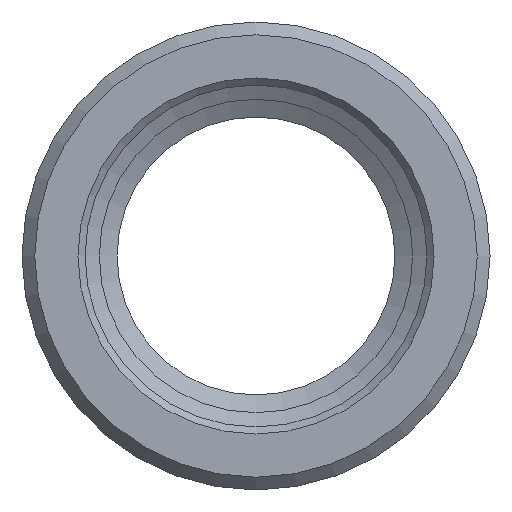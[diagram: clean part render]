
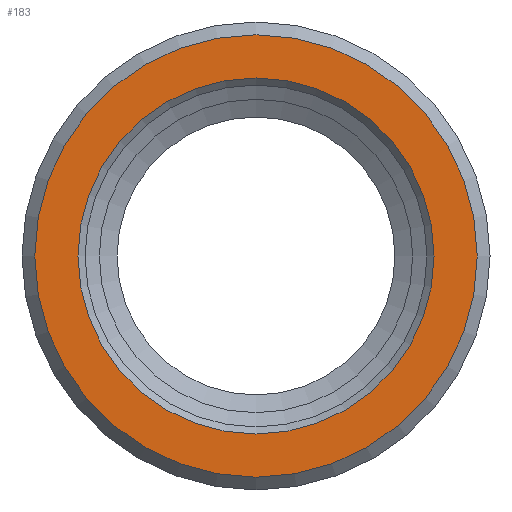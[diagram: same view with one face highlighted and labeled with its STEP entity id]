
A CAD part, left-side view. The second image highlights one B-rep face of the part: STEP entity #183.
In plain terms, the highlighted planar face has unit normal (-1, 0, 0).
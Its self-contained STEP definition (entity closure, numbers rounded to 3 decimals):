
#152=CARTESIAN_POINT('',(0.,25.,0.));
#153=VERTEX_POINT('',#152);
#154=CARTESIAN_POINT('',(0.,0.,0.0));
#155=DIRECTION('',(-1.0,0.0,0.0));
#156=DIRECTION('',(0.0,-1.0,0.0));
#157=AXIS2_PLACEMENT_3D('',#154,#155,#156);
#158=CIRCLE('',#157,25.);
#159=EDGE_CURVE('',#153,#153,#158,.T.);
#164=CARTESIAN_POINT('',(0.,28.427,0.0));
#165=DIRECTION('',(-1.0,0.0,0.0));
#166=DIRECTION('',(0.0,0.0,1.0));
#167=AXIS2_PLACEMENT_3D('',#164,#165,#166);
#168=PLANE('',#167);
#169=CARTESIAN_POINT('',(0.,31.055,0.));
#170=VERTEX_POINT('',#169);
#171=CARTESIAN_POINT('',(0.,0.,0.0));
#172=DIRECTION('',(1.0,0.0,0.0));
#173=DIRECTION('',(0.0,-1.0,0.0));
#174=AXIS2_PLACEMENT_3D('',#171,#172,#173);
#175=CIRCLE('',#174,31.055);
#176=EDGE_CURVE('',#170,#170,#175,.T.);
#177=ORIENTED_EDGE('',*,*,#176,.F.);
#178=EDGE_LOOP('',(#177));
#179=FACE_OUTER_BOUND('',#178,.T.);
#180=ORIENTED_EDGE('',*,*,#159,.F.);
#181=EDGE_LOOP('',(#180));
#182=FACE_BOUND('',#181,.T.);
#183=ADVANCED_FACE('',(#179,#182),#168,.T.);
